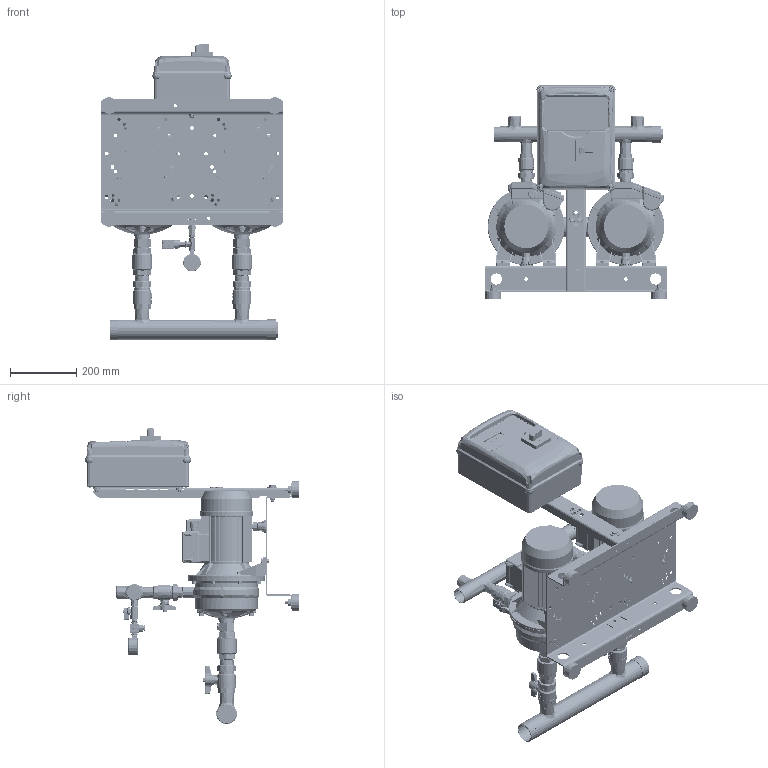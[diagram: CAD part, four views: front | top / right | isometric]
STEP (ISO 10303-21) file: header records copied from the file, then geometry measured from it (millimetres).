
FILE_DESCRIPTION((''),'2;1');
FILE_NAME('2GP_2CDX_70-20M_REV5_ASM','2025-02-04T14:58:21',('Utente'),('"Ebara Pumps Europe S.p.A"'),'CREO PARAMETRIC BY PTC INC, 2022124','CREO PARAMETRIC BY PTC INC, 2022124','');
FILE_SCHEMA(('AUTOMOTIVE_DESIGN { 1 0 10303 214 1 1 1 1 }'));
Products named in the file (46): 62508_275562936; CALOTTA_F_A304_DN50_369800820; VAL_INT_MF-B_OTN_CIM346_DN32; VAL_INT_M-F-3_OTN_CIM346_DN32_ASM; VAL-NR-FF-OTN-CIM30-DN32; VAL_NR_F-F_OTN_CIM30_DN32_ASM; NIPPLO-ALIM_OT_DN32_361910051; TAPPO_M_OT_1-2_380000878; MEC_80_PACCO110_120_MONOFASE_2; COPRIMORSETTIERA_MEC80_90_M_11; 80563_12; 251420692_139; 72011_6; 72013_3; 2CDXM_70_20_ASM; EP_2CDXM_70-20_ASM; VAL_INT_MF-B_OTN_CIM346_DN25; VAL_INT_M-F-3_OTN_CIM346_DN25_ASM; RONDEL-P_FE_ZN_UNI6592_M8; DADO_AUTOAGG_M8_ESAG; VITI_TE_ISO4017_M8_L20; 62510_275562939; CALOTTA_F_A304_DN40_369800819; TAPPO-SALVAFIL_D31; VAL_INT_MF_OTN_CIM012_DN8; NIPPLO_OTG_8_380000861; RACC-T_OTG_DN8_380000880; MAN_RAD_D50_10BAR_361600160; BASE_2GP_I300-B300_DNRV; MONTANTE_H600_271472877; PIEDINO_CIL_369650010; RONDEL-P_FE_ZN_UNI6592_M10; DADI_NORM_ISO4032_FE_ZN_M10; RONDEL-P_ZN_UNI6593_M10X30X2-5; VITI_TE_ISO4017_M10_L45; TRAVERSO_MONT_L200_271472882; RONDEL-P_FE_ZN_UNI6593_M6X18X2; RONDEL-P_FE_ZN_UNI6592_M6; VITI_TE_ISO4017_M6_L20; DADI_NORM_ISO4032_FE_ZN_M6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
Assembly tree (89 placements, depth 4):
  2GP_2CDX_70-20M_REV5_ASM
    62508_275562936
    CALOTTA_F_A304_DN50_369800820
    VAL_INT_M-F-3_OTN_CIM346_DN32_ASM  x2
      VAL_INT_MF-B_OTN_CIM346_DN32
    VAL_NR_F-F_OTN_CIM30_DN32_ASM  x2
      VAL-NR-FF-OTN-CIM30-DN32
    NIPPLO-ALIM_OT_DN32_361910051  x2
    TAPPO_M_OT_1-2_380000878  x2
    EP_2CDXM_70-20_ASM  x2
      2CDXM_70_20_ASM
        MEC_80_PACCO110_120_MONOFASE_2
        COPRIMORSETTIERA_MEC80_90_M_11
        80563_12
        251420692_139
        72011_6
        72013_3
    VAL_INT_M-F-3_OTN_CIM346_DN25_ASM  x2
      VAL_INT_MF-B_OTN_CIM346_DN25
    RONDEL-P_FE_ZN_UNI6592_M8  x4
    DADO_AUTOAGG_M8_ESAG  x4
    VITI_TE_ISO4017_M8_L20  x4
    62510_275562939
    CALOTTA_F_A304_DN40_369800819
    TAPPO-SALVAFIL_D31  x2
    VAL_INT_MF_OTN_CIM012_DN8
    NIPPLO_OTG_8_380000861
    RACC-T_OTG_DN8_380000880
    MAN_RAD_D50_10BAR_361600160
    DNRV_2P_I300-B300_H600-Q220X300_ASM
      BASE_2GP_I300-B300_DNRV
      MONTANTE_H600_271472877
      PIEDINO_CIL_369650010  x4
      RONDEL-P_FE_ZN_UNI6592_M10  x4
      DADI_NORM_ISO4032_FE_ZN_M10  x4
      RONDEL-P_ZN_UNI6593_M10X30X2-5
      VITI_TE_ISO4017_M10_L45
      TRAVERSO_MONT_L200_271472882  x2
      RONDEL-P_FE_ZN_UNI6593_M6X18X2  x8
      RONDEL-P_FE_ZN_UNI6592_M6  x4
      VITI_TE_ISO4017_M6_L20  x4
      DADI_NORM_ISO4032_FE_ZN_M6  x4
      DADO_AUTOAGG_M10_ESAG
    COM_EP-PRO_2M_362334214
    PG_PVC_D10-5_380000891  x3
    TRASD_16BAR_460500024
Bounding box: 550 x 644.45 x 893.45 mm (x, y, z)
Volume: 14527789.6 mm3; surface area: 3704286.5 mm2
Topology: 1361 solids, 1492 shells, 21578 faces, 54877 edges, 36508 vertices
Faces by surface type: plane 14142, cylinder 3441, cone 1344, extrusion 943, bspline 917, torus 690, sphere 99, revolution 2
Entity records: 966063 total; most frequent: CARTESIAN_POINT 297834, ORIENTED_EDGE 81093, DIRECTION 76271, PRESENTATION_STYLE_ASSIGNMENT 54454, STYLED_ITEM 44985, EDGE_CURVE 41498, CURVE_STYLE 40743, VECTOR 30330
